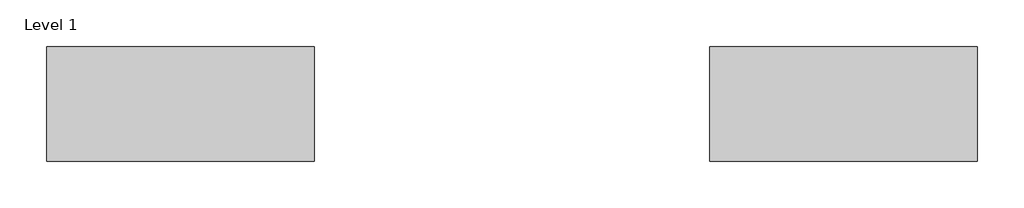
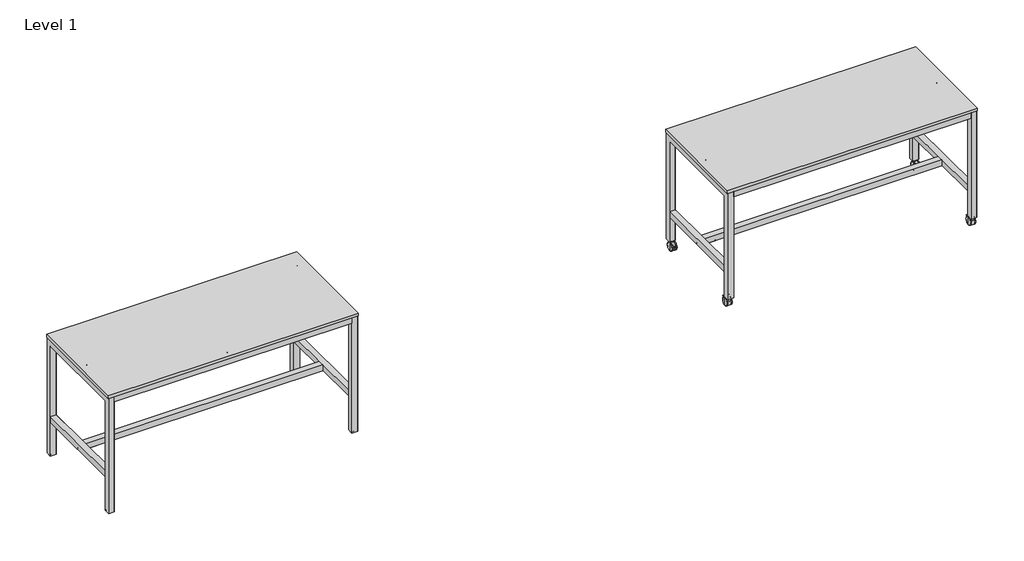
# One storey: 2 furniture elements.
"""IFC4 building model written with IfcOpenShell, lengths in millimetres."""

from ifc_helpers import new_model, si_unit, origin, place, context, project, spatial, transform, mapped, element, save
from components import furniture_1f2e3726, furniture_8d8db78f, furniture_dd5b71e2

model = new_model("IFC4")

# Units and contexts
model_context = context("Model", 3, world=origin())
ifc_project = project(units=[si_unit("LENGTHUNIT", "METRE", prefix="MILLI")], contexts=[model_context])

# Site, building, storey
site = spatial("IfcSite", under=ifc_project)
building = spatial("IfcBuilding", under=site)
storey = spatial("IfcBuildingStorey", under=building, Name="Level 1", Elevation=0.0)

# Furniture
placement = place(None, origin())
furniture_shape = furniture_1f2e3726(model_context)
furniture_2_shape = furniture_8d8db78f(model_context)
element("IfcFurniture", 1, ObjectType="Tables with Castors : Tables with Castors", at=placement, inside=storey, context=model_context, shape_type="MappedRepresentation", body=[
    mapped(furniture_shape, transform((2204.9520049, -333.8053194, 0.0), x_axis=(1.0, 0.0, 0.0), y_axis=(0.0, 1.0, 0.0), z_axis=(0.0, 0.0, 1.0))),
    mapped(furniture_2_shape, transform((2204.9520049, -333.8053194, 0.0), x_axis=(1.0, 0.0, 0.0), y_axis=(0.0, 1.0, 0.0), z_axis=(0.0, 0.0, 1.0))),
])
furniture_3_shape = furniture_dd5b71e2(model_context)
element("IfcFurniture", 2, ObjectType="Tables without Castors : Tables without Castors", at=placement, inside=storey, context=model_context, shape_type="MappedRepresentation", body=[
    mapped(furniture_3_shape, transform((-2995.0479951, -333.8053194, 0.0), x_axis=(1.0, 0.0, 0.0), y_axis=(0.0, 1.0, 0.0), z_axis=(0.0, 0.0, 1.0))),
])

save(model, "model.ifc")
